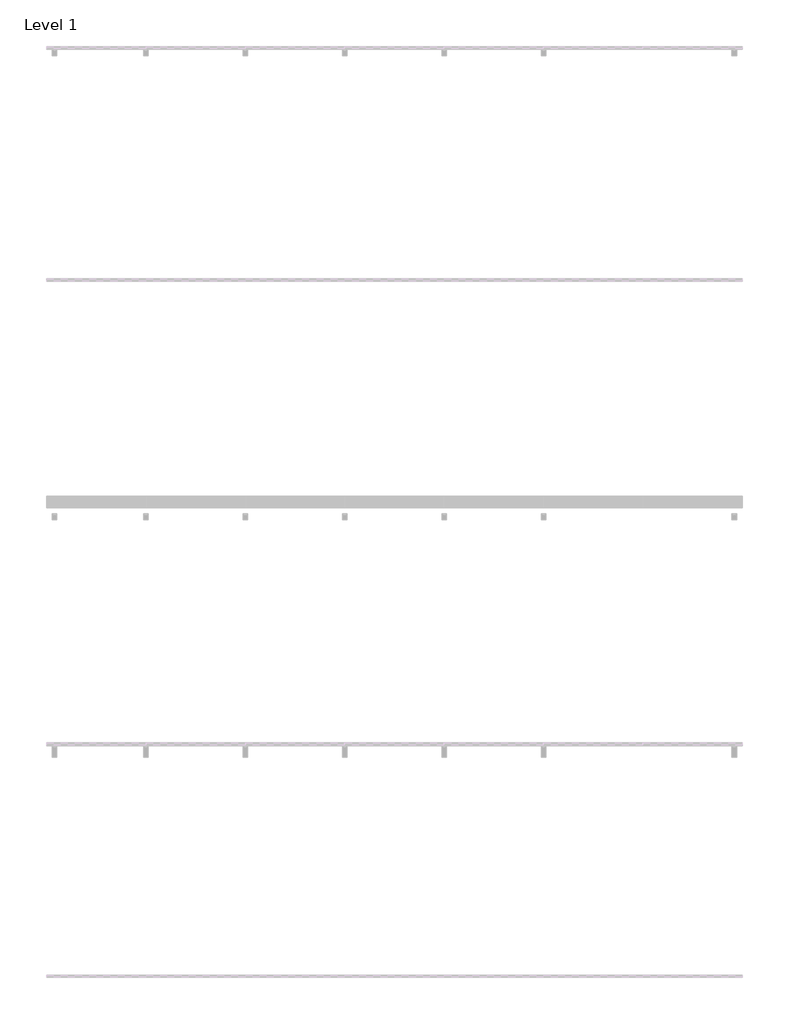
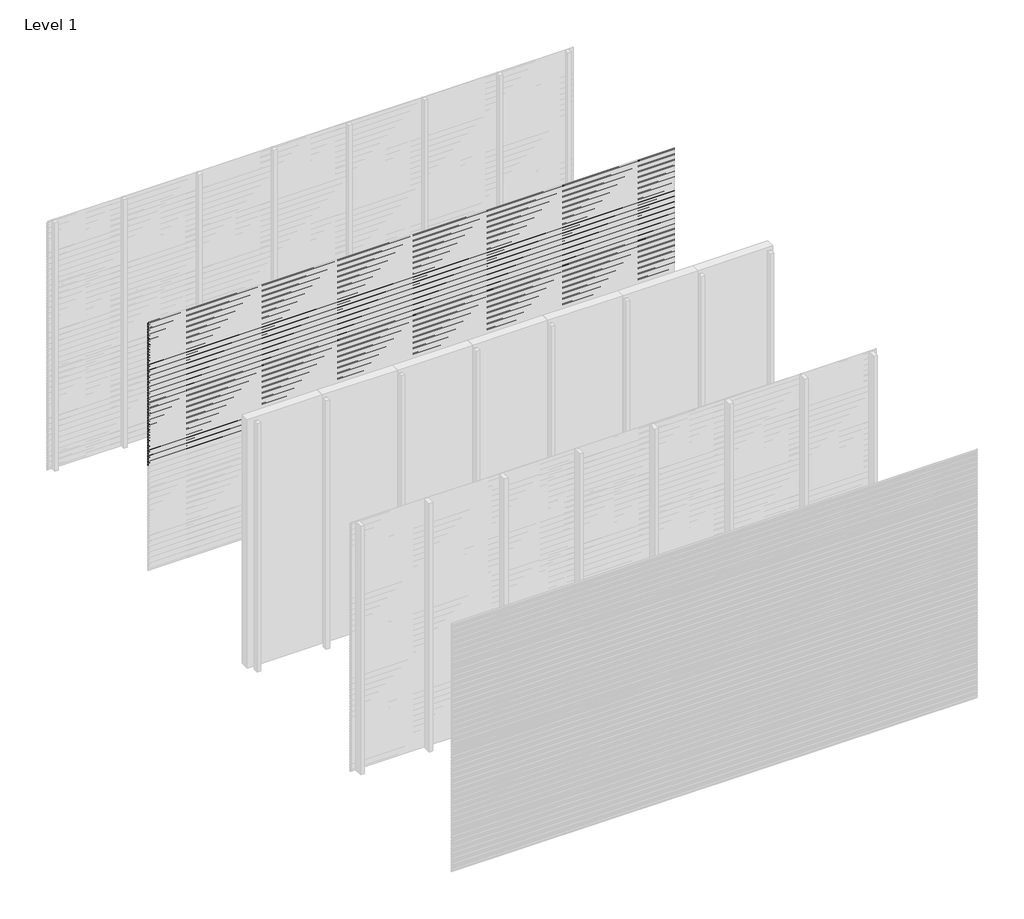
# One storey, part 41 of 96: 77 proxies.
"""IFC4 building model written with IfcOpenShell, lengths in millimetres."""

from ifc_helpers import new_model, si_unit, frame, origin, place, context, project, spatial, polyline, outline, extrude, element, save

model = new_model("IFC4")

# Units and contexts
model_context = context("Model", 3, world=origin())
ifc_project = project(units=[si_unit("LENGTHUNIT", "METRE", prefix="MILLI")], contexts=[model_context])

# Site, building, storey
site = spatial("IfcSite", under=ifc_project)
building = spatial("IfcBuilding", under=site)
storey = spatial("IfcBuildingStorey", under=building, Name="Level 1", Elevation=0.0)

# Proxies
placement = place(None, origin())
element("IfcBuildingElementProxy", 1, Name="Wall Sweeps", at=placement, inside=storey, context=model_context, shape_type="SweptSolid", body=[
    extrude(outline(polyline([(-31977.6, 2971.7655033), (-31977.6, 2957.4779188), (-31982.4114965, 2954.7), (-31982.4114965, 2955.9701706), (-31978.85, 2958.0264016), (-31978.85, 2971.0437382), (-31998.0, 2982.1000799), (-31998.0, 2997.0), (-31996.75, 2997.0), (-31996.75, 2982.8217609), (-31977.6, 2971.7655033)])), frame((0.0, 0.0, 0.0), z_axis=(1.0, 0.0, 0.0), x_axis=(0.0, 1.0, 0.0)), (0.0, 0.0, 1.0), 6000.0),
])
element("IfcBuildingElementProxy", 2, Name="Wall Sweeps", at=placement, inside=storey, context=model_context, shape_type="SweptSolid", body=[
    extrude(outline(polyline([(-31977.6, 2938.4655033), (-31977.6, 2924.1779188), (-31982.4114965, 2921.4), (-31982.4114965, 2922.6701706), (-31978.85, 2924.7264016), (-31978.85, 2937.7437382), (-31998.0, 2948.8000799), (-31998.0, 2963.7), (-31996.75, 2963.7), (-31996.75, 2949.5217609), (-31977.6, 2938.4655033)])), frame((0.0, 0.0, 0.0), z_axis=(1.0, 0.0, 0.0), x_axis=(0.0, 1.0, 0.0)), (0.0, 0.0, 1.0), 6000.0),
])
element("IfcBuildingElementProxy", 3, Name="Wall Sweeps", at=placement, inside=storey, context=model_context, shape_type="SweptSolid", body=[
    extrude(outline(polyline([(-31977.6, 2905.1655033), (-31977.6, 2890.8779188), (-31982.4114965, 2888.1), (-31982.4114965, 2889.3701706), (-31978.85, 2891.4264016), (-31978.85, 2904.4437382), (-31998.0, 2915.5000799), (-31998.0, 2930.4), (-31996.75, 2930.4), (-31996.75, 2916.2217609), (-31977.6, 2905.1655033)])), frame((0.0, 0.0, 0.0), z_axis=(1.0, 0.0, 0.0), x_axis=(0.0, 1.0, 0.0)), (0.0, 0.0, 1.0), 6000.0),
])
element("IfcBuildingElementProxy", 4, Name="Wall Sweeps", at=placement, inside=storey, context=model_context, shape_type="SweptSolid", body=[
    extrude(outline(polyline([(-31977.6, 2871.8655033), (-31977.6, 2857.5779188), (-31982.4114965, 2854.8), (-31982.4114965, 2856.0701706), (-31978.85, 2858.1264016), (-31978.85, 2871.1437382), (-31998.0, 2882.2000799), (-31998.0, 2897.1), (-31996.75, 2897.1), (-31996.75, 2882.9217609), (-31977.6, 2871.8655033)])), frame((0.0, 0.0, 0.0), z_axis=(1.0, 0.0, 0.0), x_axis=(0.0, 1.0, 0.0)), (0.0, 0.0, 1.0), 6000.0),
])
element("IfcBuildingElementProxy", 5, Name="Wall Sweeps", at=placement, inside=storey, context=model_context, shape_type="SweptSolid", body=[
    extrude(outline(polyline([(-31977.6, 2838.5655033), (-31977.6, 2824.2779188), (-31982.4114965, 2821.5), (-31982.4114965, 2822.7701706), (-31978.85, 2824.8264016), (-31978.85, 2837.8437382), (-31998.0, 2848.9000799), (-31998.0, 2863.8), (-31996.75, 2863.8), (-31996.75, 2849.6217609), (-31977.6, 2838.5655033)])), frame((0.0, 0.0, 0.0), z_axis=(1.0, 0.0, 0.0), x_axis=(0.0, 1.0, 0.0)), (0.0, 0.0, 1.0), 6000.0),
])
element("IfcBuildingElementProxy", 6, Name="Wall Sweeps", at=placement, inside=storey, context=model_context, shape_type="SweptSolid", body=[
    extrude(outline(polyline([(-31977.6, 2805.2655033), (-31977.6, 2790.9779188), (-31982.4114965, 2788.2), (-31982.4114965, 2789.4701706), (-31978.85, 2791.5264016), (-31978.85, 2804.5437382), (-31998.0, 2815.6000799), (-31998.0, 2830.5), (-31996.75, 2830.5), (-31996.75, 2816.3217609), (-31977.6, 2805.2655033)])), frame((0.0, 0.0, 0.0), z_axis=(1.0, 0.0, 0.0), x_axis=(0.0, 1.0, 0.0)), (0.0, 0.0, 1.0), 6000.0),
])
element("IfcBuildingElementProxy", 7, Name="Wall Sweeps", at=placement, inside=storey, context=model_context, shape_type="SweptSolid", body=[
    extrude(outline(polyline([(-31977.6, 2771.9655033), (-31977.6, 2757.6779188), (-31982.4114965, 2754.9), (-31982.4114965, 2756.1701706), (-31978.85, 2758.2264016), (-31978.85, 2771.2437382), (-31998.0, 2782.3000799), (-31998.0, 2797.2), (-31996.75, 2797.2), (-31996.75, 2783.0217609), (-31977.6, 2771.9655033)])), frame((0.0, 0.0, 0.0), z_axis=(1.0, 0.0, 0.0), x_axis=(0.0, 1.0, 0.0)), (0.0, 0.0, 1.0), 6000.0),
])
element("IfcBuildingElementProxy", 8, Name="Wall Sweeps", at=placement, inside=storey, context=model_context, shape_type="SweptSolid", body=[
    extrude(outline(polyline([(-31977.6, 2738.6655033), (-31977.6, 2724.3779188), (-31982.4114965, 2721.6), (-31982.4114965, 2722.8701706), (-31978.85, 2724.9264016), (-31978.85, 2737.9437382), (-31998.0, 2749.0000799), (-31998.0, 2763.9), (-31996.75, 2763.9), (-31996.75, 2749.7217609), (-31977.6, 2738.6655033)])), frame((0.0, 0.0, 0.0), z_axis=(1.0, 0.0, 0.0), x_axis=(0.0, 1.0, 0.0)), (0.0, 0.0, 1.0), 6000.0),
])
element("IfcBuildingElementProxy", 9, Name="Wall Sweeps", at=placement, inside=storey, context=model_context, shape_type="SweptSolid", body=[
    extrude(outline(polyline([(-31977.6, 2705.3655033), (-31977.6, 2691.0779188), (-31982.4114965, 2688.3), (-31982.4114965, 2689.5701706), (-31978.85, 2691.6264016), (-31978.85, 2704.6437382), (-31998.0, 2715.7000799), (-31998.0, 2730.6), (-31996.75, 2730.6), (-31996.75, 2716.4217609), (-31977.6, 2705.3655033)])), frame((0.0, 0.0, 0.0), z_axis=(1.0, 0.0, 0.0), x_axis=(0.0, 1.0, 0.0)), (0.0, 0.0, 1.0), 6000.0),
])
element("IfcBuildingElementProxy", 10, Name="Wall Sweeps", at=placement, inside=storey, context=model_context, shape_type="SweptSolid", body=[
    extrude(outline(polyline([(-31977.6, 2672.0655033), (-31977.6, 2657.7779188), (-31982.4114965, 2655.0), (-31982.4114965, 2656.2701706), (-31978.85, 2658.3264016), (-31978.85, 2671.3437382), (-31998.0, 2682.4000799), (-31998.0, 2697.3), (-31996.75, 2697.3), (-31996.75, 2683.1217609), (-31977.6, 2672.0655033)])), frame((0.0, 0.0, 0.0), z_axis=(1.0, 0.0, 0.0), x_axis=(0.0, 1.0, 0.0)), (0.0, 0.0, 1.0), 6000.0),
])
element("IfcBuildingElementProxy", 11, Name="Wall Sweeps", at=placement, inside=storey, context=model_context, shape_type="SweptSolid", body=[
    extrude(outline(polyline([(-31977.6, 2638.7655033), (-31977.6, 2624.4779188), (-31982.4114965, 2621.7), (-31982.4114965, 2622.9701706), (-31978.85, 2625.0264016), (-31978.85, 2638.0437382), (-31998.0, 2649.1000799), (-31998.0, 2664.0), (-31996.75, 2664.0), (-31996.75, 2649.8217609), (-31977.6, 2638.7655033)])), frame((0.0, 0.0, 0.0), z_axis=(1.0, 0.0, 0.0), x_axis=(0.0, 1.0, 0.0)), (0.0, 0.0, 1.0), 6000.0),
])
element("IfcBuildingElementProxy", 12, Name="Wall Sweeps", at=placement, inside=storey, context=model_context, shape_type="SweptSolid", body=[
    extrude(outline(polyline([(-31977.6, 2605.4655033), (-31977.6, 2591.1779188), (-31982.4114965, 2588.4), (-31982.4114965, 2589.6701706), (-31978.85, 2591.7264016), (-31978.85, 2604.7437382), (-31998.0, 2615.8000799), (-31998.0, 2630.7), (-31996.75, 2630.7), (-31996.75, 2616.5217609), (-31977.6, 2605.4655033)])), frame((0.0, 0.0, 0.0), z_axis=(1.0, 0.0, 0.0), x_axis=(0.0, 1.0, 0.0)), (0.0, 0.0, 1.0), 6000.0),
])
element("IfcBuildingElementProxy", 13, Name="Wall Sweeps", at=placement, inside=storey, context=model_context, shape_type="SweptSolid", body=[
    extrude(outline(polyline([(-31977.6, 2572.1655033), (-31977.6, 2557.8779188), (-31982.4114965, 2555.1), (-31982.4114965, 2556.3701706), (-31978.85, 2558.4264016), (-31978.85, 2571.4437382), (-31998.0, 2582.5000799), (-31998.0, 2597.4), (-31996.75, 2597.4), (-31996.75, 2583.2217609), (-31977.6, 2572.1655033)])), frame((0.0, 0.0, 0.0), z_axis=(1.0, 0.0, 0.0), x_axis=(0.0, 1.0, 0.0)), (0.0, 0.0, 1.0), 6000.0),
])
element("IfcBuildingElementProxy", 14, Name="Wall Sweeps", at=placement, inside=storey, context=model_context, shape_type="SweptSolid", body=[
    extrude(outline(polyline([(-31977.6, 2538.8655033), (-31977.6, 2524.5779188), (-31982.4114965, 2521.8), (-31982.4114965, 2523.0701706), (-31978.85, 2525.1264016), (-31978.85, 2538.1437382), (-31998.0, 2549.2000799), (-31998.0, 2564.1), (-31996.75, 2564.1), (-31996.75, 2549.9217609), (-31977.6, 2538.8655033)])), frame((0.0, 0.0, 0.0), z_axis=(1.0, 0.0, 0.0), x_axis=(0.0, 1.0, 0.0)), (0.0, 0.0, 1.0), 6000.0),
])
element("IfcBuildingElementProxy", 15, Name="Wall Sweeps", at=placement, inside=storey, context=model_context, shape_type="SweptSolid", body=[
    extrude(outline(polyline([(-31977.6, 2505.5655033), (-31977.6, 2491.2779188), (-31982.4114965, 2488.5), (-31982.4114965, 2489.7701706), (-31978.85, 2491.8264016), (-31978.85, 2504.8437382), (-31998.0, 2515.9000799), (-31998.0, 2530.8), (-31996.75, 2530.8), (-31996.75, 2516.6217609), (-31977.6, 2505.5655033)])), frame((0.0, 0.0, 0.0), z_axis=(1.0, 0.0, 0.0), x_axis=(0.0, 1.0, 0.0)), (0.0, 0.0, 1.0), 6000.0),
])
element("IfcBuildingElementProxy", 16, Name="Wall Sweeps", at=placement, inside=storey, context=model_context, shape_type="SweptSolid", body=[
    extrude(outline(polyline([(-31977.6, 2472.2655033), (-31977.6, 2457.9779188), (-31982.4114965, 2455.2), (-31982.4114965, 2456.4701706), (-31978.85, 2458.5264016), (-31978.85, 2471.5437382), (-31998.0, 2482.6000799), (-31998.0, 2497.5), (-31996.75, 2497.5), (-31996.75, 2483.3217609), (-31977.6, 2472.2655033)])), frame((0.0, 0.0, 0.0), z_axis=(1.0, 0.0, 0.0), x_axis=(0.0, 1.0, 0.0)), (0.0, 0.0, 1.0), 6000.0),
])
element("IfcBuildingElementProxy", 17, Name="Wall Sweeps", at=placement, inside=storey, context=model_context, shape_type="SweptSolid", body=[
    extrude(outline(polyline([(-31977.6, 2438.9655033), (-31977.6, 2424.6779188), (-31982.4114965, 2421.9), (-31982.4114965, 2423.1701706), (-31978.85, 2425.2264016), (-31978.85, 2438.2437382), (-31998.0, 2449.3000799), (-31998.0, 2464.2), (-31996.75, 2464.2), (-31996.75, 2450.0217609), (-31977.6, 2438.9655033)])), frame((0.0, 0.0, 0.0), z_axis=(1.0, 0.0, 0.0), x_axis=(0.0, 1.0, 0.0)), (0.0, 0.0, 1.0), 6000.0),
])
element("IfcBuildingElementProxy", 18, Name="Wall Sweeps", at=placement, inside=storey, context=model_context, shape_type="SweptSolid", body=[
    extrude(outline(polyline([(-31977.6, 2405.6655033), (-31977.6, 2391.3779188), (-31982.4114965, 2388.6), (-31982.4114965, 2389.8701706), (-31978.85, 2391.9264016), (-31978.85, 2404.9437382), (-31998.0, 2416.0000799), (-31998.0, 2430.9), (-31996.75, 2430.9), (-31996.75, 2416.7217609), (-31977.6, 2405.6655033)])), frame((0.0, 0.0, 0.0), z_axis=(1.0, 0.0, 0.0), x_axis=(0.0, 1.0, 0.0)), (0.0, 0.0, 1.0), 6000.0),
])
element("IfcBuildingElementProxy", 19, Name="Wall Sweeps", at=placement, inside=storey, context=model_context, shape_type="SweptSolid", body=[
    extrude(outline(polyline([(-31977.6, 2372.3655033), (-31977.6, 2358.0779188), (-31982.4114965, 2355.3), (-31982.4114965, 2356.5701706), (-31978.85, 2358.6264016), (-31978.85, 2371.6437382), (-31998.0, 2382.7000799), (-31998.0, 2397.6), (-31996.75, 2397.6), (-31996.75, 2383.4217609), (-31977.6, 2372.3655033)])), frame((0.0, 0.0, 0.0), z_axis=(1.0, 0.0, 0.0), x_axis=(0.0, 1.0, 0.0)), (0.0, 0.0, 1.0), 6000.0),
])
element("IfcBuildingElementProxy", 20, Name="Wall Sweeps", at=placement, inside=storey, context=model_context, shape_type="SweptSolid", body=[
    extrude(outline(polyline([(-31977.6, 2339.0655033), (-31977.6, 2324.7779188), (-31982.4114965, 2322.0), (-31982.4114965, 2323.2701706), (-31978.85, 2325.3264016), (-31978.85, 2338.3437382), (-31998.0, 2349.4000799), (-31998.0, 2364.3), (-31996.75, 2364.3), (-31996.75, 2350.1217609), (-31977.6, 2339.0655033)])), frame((0.0, 0.0, 0.0), z_axis=(1.0, 0.0, 0.0), x_axis=(0.0, 1.0, 0.0)), (0.0, 0.0, 1.0), 6000.0),
])
element("IfcBuildingElementProxy", 21, Name="Wall Sweeps", at=placement, inside=storey, context=model_context, shape_type="SweptSolid", body=[
    extrude(outline(polyline([(-31977.6, 2305.7655033), (-31977.6, 2291.4779188), (-31982.4114965, 2288.7), (-31982.4114965, 2289.9701706), (-31978.85, 2292.0264016), (-31978.85, 2305.0437382), (-31998.0, 2316.1000799), (-31998.0, 2331.0), (-31996.75, 2331.0), (-31996.75, 2316.8217609), (-31977.6, 2305.7655033)])), frame((0.0, 0.0, 0.0), z_axis=(1.0, 0.0, 0.0), x_axis=(0.0, 1.0, 0.0)), (0.0, 0.0, 1.0), 6000.0),
])
element("IfcBuildingElementProxy", 22, Name="Wall Sweeps", at=placement, inside=storey, context=model_context, shape_type="SweptSolid", body=[
    extrude(outline(polyline([(-31977.6, 2272.4655033), (-31977.6, 2258.1779188), (-31982.4114965, 2255.4), (-31982.4114965, 2256.6701706), (-31978.85, 2258.7264016), (-31978.85, 2271.7437382), (-31998.0, 2282.8000799), (-31998.0, 2297.7), (-31996.75, 2297.7), (-31996.75, 2283.5217609), (-31977.6, 2272.4655033)])), frame((0.0, 0.0, 0.0), z_axis=(1.0, 0.0, 0.0), x_axis=(0.0, 1.0, 0.0)), (0.0, 0.0, 1.0), 6000.0),
])
element("IfcBuildingElementProxy", 23, Name="Wall Sweeps", at=placement, inside=storey, context=model_context, shape_type="SweptSolid", body=[
    extrude(outline(polyline([(-31977.6, 2239.1655033), (-31977.6, 2224.8779188), (-31982.4114965, 2222.1), (-31982.4114965, 2223.3701706), (-31978.85, 2225.4264016), (-31978.85, 2238.4437382), (-31998.0, 2249.5000799), (-31998.0, 2264.4), (-31996.75, 2264.4), (-31996.75, 2250.2217609), (-31977.6, 2239.1655033)])), frame((0.0, 0.0, 0.0), z_axis=(1.0, 0.0, 0.0), x_axis=(0.0, 1.0, 0.0)), (0.0, 0.0, 1.0), 6000.0),
])
element("IfcBuildingElementProxy", 24, Name="Wall Sweeps", at=placement, inside=storey, context=model_context, shape_type="SweptSolid", body=[
    extrude(outline(polyline([(-31977.6, 2205.8655033), (-31977.6, 2191.5779188), (-31982.4114965, 2188.8), (-31982.4114965, 2190.0701706), (-31978.85, 2192.1264016), (-31978.85, 2205.1437382), (-31998.0, 2216.2000799), (-31998.0, 2231.1), (-31996.75, 2231.1), (-31996.75, 2216.9217609), (-31977.6, 2205.8655033)])), frame((0.0, 0.0, 0.0), z_axis=(1.0, 0.0, 0.0), x_axis=(0.0, 1.0, 0.0)), (0.0, 0.0, 1.0), 6000.0),
])
element("IfcBuildingElementProxy", 25, Name="Wall Sweeps", at=placement, inside=storey, context=model_context, shape_type="SweptSolid", body=[
    extrude(outline(polyline([(-31977.6, 2172.5655033), (-31977.6, 2158.2779188), (-31982.4114965, 2155.5), (-31982.4114965, 2156.7701706), (-31978.85, 2158.8264016), (-31978.85, 2171.8437382), (-31998.0, 2182.9000799), (-31998.0, 2197.8), (-31996.75, 2197.8), (-31996.75, 2183.6217609), (-31977.6, 2172.5655033)])), frame((0.0, 0.0, 0.0), z_axis=(1.0, 0.0, 0.0), x_axis=(0.0, 1.0, 0.0)), (0.0, 0.0, 1.0), 6000.0),
])
element("IfcBuildingElementProxy", 26, Name="Wall Sweeps", at=placement, inside=storey, context=model_context, shape_type="SweptSolid", body=[
    extrude(outline(polyline([(-31977.6, 2139.2655033), (-31977.6, 2124.9779188), (-31982.4114965, 2122.2), (-31982.4114965, 2123.4701706), (-31978.85, 2125.5264016), (-31978.85, 2138.5437382), (-31998.0, 2149.6000799), (-31998.0, 2164.5), (-31996.75, 2164.5), (-31996.75, 2150.3217609), (-31977.6, 2139.2655033)])), frame((0.0, 0.0, 0.0), z_axis=(1.0, 0.0, 0.0), x_axis=(0.0, 1.0, 0.0)), (0.0, 0.0, 1.0), 6000.0),
])
element("IfcBuildingElementProxy", 27, Name="Wall Sweeps", at=placement, inside=storey, context=model_context, shape_type="SweptSolid", body=[
    extrude(outline(polyline([(-31977.6, 2105.9655033), (-31977.6, 2091.6779188), (-31982.4114965, 2088.9), (-31982.4114965, 2090.1701706), (-31978.85, 2092.2264016), (-31978.85, 2105.2437382), (-31998.0, 2116.3000799), (-31998.0, 2131.2), (-31996.75, 2131.2), (-31996.75, 2117.0217609), (-31977.6, 2105.9655033)])), frame((0.0, 0.0, 0.0), z_axis=(1.0, 0.0, 0.0), x_axis=(0.0, 1.0, 0.0)), (0.0, 0.0, 1.0), 6000.0),
])
element("IfcBuildingElementProxy", 28, Name="Wall Sweeps", at=placement, inside=storey, context=model_context, shape_type="SweptSolid", body=[
    extrude(outline(polyline([(-31977.6, 2072.6655033), (-31977.6, 2058.3779188), (-31982.4114965, 2055.6), (-31982.4114965, 2056.8701706), (-31978.85, 2058.9264016), (-31978.85, 2071.9437382), (-31998.0, 2083.0000799), (-31998.0, 2097.9), (-31996.75, 2097.9), (-31996.75, 2083.7217609), (-31977.6, 2072.6655033)])), frame((0.0, 0.0, 0.0), z_axis=(1.0, 0.0, 0.0), x_axis=(0.0, 1.0, 0.0)), (0.0, 0.0, 1.0), 6000.0),
])
element("IfcBuildingElementProxy", 29, Name="Wall Sweeps", at=placement, inside=storey, context=model_context, shape_type="SweptSolid", body=[
    extrude(outline(polyline([(-31977.6, 2039.3655033), (-31977.6, 2025.0779188), (-31982.4114965, 2022.3), (-31982.4114965, 2023.5701706), (-31978.85, 2025.6264016), (-31978.85, 2038.6437382), (-31998.0, 2049.7000799), (-31998.0, 2064.6), (-31996.75, 2064.6), (-31996.75, 2050.4217609), (-31977.6, 2039.3655033)])), frame((0.0, 0.0, 0.0), z_axis=(1.0, 0.0, 0.0), x_axis=(0.0, 1.0, 0.0)), (0.0, 0.0, 1.0), 6000.0),
])
element("IfcBuildingElementProxy", 30, Name="Wall Sweeps", at=placement, inside=storey, context=model_context, shape_type="SweptSolid", body=[
    extrude(outline(polyline([(-31977.6, 2006.0655033), (-31977.6, 1991.7779188), (-31982.4114965, 1989.0), (-31982.4114965, 1990.2701706), (-31978.85, 1992.3264016), (-31978.85, 2005.3437382), (-31998.0, 2016.4000799), (-31998.0, 2031.3), (-31996.75, 2031.3), (-31996.75, 2017.1217609), (-31977.6, 2006.0655033)])), frame((0.0, 0.0, 0.0), z_axis=(1.0, 0.0, 0.0), x_axis=(0.0, 1.0, 0.0)), (0.0, 0.0, 1.0), 6000.0),
])
element("IfcBuildingElementProxy", 31, Name="Wall Sweeps", at=placement, inside=storey, context=model_context, shape_type="SweptSolid", body=[
    extrude(outline(polyline([(-31977.6, 1972.7655033), (-31977.6, 1958.4779188), (-31982.4114965, 1955.7), (-31982.4114965, 1956.9701706), (-31978.85, 1959.0264016), (-31978.85, 1972.0437382), (-31998.0, 1983.1000799), (-31998.0, 1998.0), (-31996.75, 1998.0), (-31996.75, 1983.8217609), (-31977.6, 1972.7655033)])), frame((0.0, 0.0, 0.0), z_axis=(1.0, 0.0, 0.0), x_axis=(0.0, 1.0, 0.0)), (0.0, 0.0, 1.0), 6000.0),
])
element("IfcBuildingElementProxy", 32, Name="Wall Sweeps", at=placement, inside=storey, context=model_context, shape_type="SweptSolid", body=[
    extrude(outline(polyline([(-31977.6, 1939.4655033), (-31977.6, 1925.1779188), (-31982.4114965, 1922.4), (-31982.4114965, 1923.6701706), (-31978.85, 1925.7264016), (-31978.85, 1938.7437382), (-31998.0, 1949.8000799), (-31998.0, 1964.7), (-31996.75, 1964.7), (-31996.75, 1950.5217609), (-31977.6, 1939.4655033)])), frame((0.0, 0.0, 0.0), z_axis=(1.0, 0.0, 0.0), x_axis=(0.0, 1.0, 0.0)), (0.0, 0.0, 1.0), 6000.0),
])
element("IfcBuildingElementProxy", 33, Name="Wall Sweeps", at=placement, inside=storey, context=model_context, shape_type="SweptSolid", body=[
    extrude(outline(polyline([(-31977.6, 1906.1655033), (-31977.6, 1891.8779188), (-31982.4114965, 1889.1), (-31982.4114965, 1890.3701706), (-31978.85, 1892.4264016), (-31978.85, 1905.4437382), (-31998.0, 1916.5000799), (-31998.0, 1931.4), (-31996.75, 1931.4), (-31996.75, 1917.2217609), (-31977.6, 1906.1655033)])), frame((0.0, 0.0, 0.0), z_axis=(1.0, 0.0, 0.0), x_axis=(0.0, 1.0, 0.0)), (0.0, 0.0, 1.0), 6000.0),
])
element("IfcBuildingElementProxy", 34, Name="Wall Sweeps", at=placement, inside=storey, context=model_context, shape_type="SweptSolid", body=[
    extrude(outline(polyline([(-31977.6, 1872.8655033), (-31977.6, 1858.5779188), (-31982.4114965, 1855.8), (-31982.4114965, 1857.0701706), (-31978.85, 1859.1264016), (-31978.85, 1872.1437382), (-31998.0, 1883.2000799), (-31998.0, 1898.1), (-31996.75, 1898.1), (-31996.75, 1883.9217609), (-31977.6, 1872.8655033)])), frame((0.0, 0.0, 0.0), z_axis=(1.0, 0.0, 0.0), x_axis=(0.0, 1.0, 0.0)), (0.0, 0.0, 1.0), 6000.0),
])
element("IfcBuildingElementProxy", 35, Name="Wall Sweeps", at=placement, inside=storey, context=model_context, shape_type="SweptSolid", body=[
    extrude(outline(polyline([(-31977.6, 1839.5655033), (-31977.6, 1825.2779188), (-31982.4114965, 1822.5), (-31982.4114965, 1823.7701706), (-31978.85, 1825.8264016), (-31978.85, 1838.8437382), (-31998.0, 1849.9000799), (-31998.0, 1864.8), (-31996.75, 1864.8), (-31996.75, 1850.6217609), (-31977.6, 1839.5655033)])), frame((0.0, 0.0, 0.0), z_axis=(1.0, 0.0, 0.0), x_axis=(0.0, 1.0, 0.0)), (0.0, 0.0, 1.0), 6000.0),
])
element("IfcBuildingElementProxy", 36, Name="Wall Sweeps", at=placement, inside=storey, context=model_context, shape_type="SweptSolid", body=[
    extrude(outline(polyline([(-31977.6, 1806.2655033), (-31977.6, 1791.9779188), (-31982.4114965, 1789.2), (-31982.4114965, 1790.4701706), (-31978.85, 1792.5264016), (-31978.85, 1805.5437382), (-31998.0, 1816.6000799), (-31998.0, 1831.5), (-31996.75, 1831.5), (-31996.75, 1817.3217609), (-31977.6, 1806.2655033)])), frame((0.0, 0.0, 0.0), z_axis=(1.0, 0.0, 0.0), x_axis=(0.0, 1.0, 0.0)), (0.0, 0.0, 1.0), 6000.0),
])
element("IfcBuildingElementProxy", 37, Name="Wall Sweeps", at=placement, inside=storey, context=model_context, shape_type="SweptSolid", body=[
    extrude(outline(polyline([(-31977.6, 1772.9655033), (-31977.6, 1758.6779188), (-31982.4114965, 1755.9), (-31982.4114965, 1757.1701706), (-31978.85, 1759.2264016), (-31978.85, 1772.2437382), (-31998.0, 1783.3000799), (-31998.0, 1798.2), (-31996.75, 1798.2), (-31996.75, 1784.0217609), (-31977.6, 1772.9655033)])), frame((0.0, 0.0, 0.0), z_axis=(1.0, 0.0, 0.0), x_axis=(0.0, 1.0, 0.0)), (0.0, 0.0, 1.0), 6000.0),
])
element("IfcBuildingElementProxy", 38, Name="Wall Sweeps", at=placement, inside=storey, context=model_context, shape_type="SweptSolid", body=[
    extrude(outline(polyline([(-31977.6, 1739.6655033), (-31977.6, 1725.3779188), (-31982.4114965, 1722.6), (-31982.4114965, 1723.8701706), (-31978.85, 1725.9264016), (-31978.85, 1738.9437382), (-31998.0, 1750.0000799), (-31998.0, 1764.9), (-31996.75, 1764.9), (-31996.75, 1750.7217609), (-31977.6, 1739.6655033)])), frame((0.0, 0.0, 0.0), z_axis=(1.0, 0.0, 0.0), x_axis=(0.0, 1.0, 0.0)), (0.0, 0.0, 1.0), 6000.0),
])
element("IfcBuildingElementProxy", 39, Name="Wall Sweeps", at=placement, inside=storey, context=model_context, shape_type="SweptSolid", body=[
    extrude(outline(polyline([(-31977.6, 1706.3655033), (-31977.6, 1692.0779188), (-31982.4114965, 1689.3), (-31982.4114965, 1690.5701706), (-31978.85, 1692.6264016), (-31978.85, 1705.6437382), (-31998.0, 1716.7000799), (-31998.0, 1731.6), (-31996.75, 1731.6), (-31996.75, 1717.4217609), (-31977.6, 1706.3655033)])), frame((0.0, 0.0, 0.0), z_axis=(1.0, 0.0, 0.0), x_axis=(0.0, 1.0, 0.0)), (0.0, 0.0, 1.0), 6000.0),
])
element("IfcBuildingElementProxy", 40, Name="Wall Sweeps", at=placement, inside=storey, context=model_context, shape_type="SweptSolid", body=[
    extrude(outline(polyline([(-31977.6, 1673.0655033), (-31977.6, 1658.7779188), (-31982.4114965, 1656.0), (-31982.4114965, 1657.2701706), (-31978.85, 1659.3264016), (-31978.85, 1672.3437382), (-31998.0, 1683.4000799), (-31998.0, 1698.3), (-31996.75, 1698.3), (-31996.75, 1684.1217609), (-31977.6, 1673.0655033)])), frame((0.0, 0.0, 0.0), z_axis=(1.0, 0.0, 0.0), x_axis=(0.0, 1.0, 0.0)), (0.0, 0.0, 1.0), 6000.0),
])
element("IfcBuildingElementProxy", 41, Name="Wall Sweeps", at=placement, inside=storey, context=model_context, shape_type="SweptSolid", body=[
    extrude(outline(polyline([(-31977.6, 1639.7655033), (-31977.6, 1625.4779188), (-31982.4114965, 1622.7), (-31982.4114965, 1623.9701706), (-31978.85, 1626.0264016), (-31978.85, 1639.0437382), (-31998.0, 1650.1000799), (-31998.0, 1665.0), (-31996.75, 1665.0), (-31996.75, 1650.8217609), (-31977.6, 1639.7655033)])), frame((0.0, 0.0, 0.0), z_axis=(1.0, 0.0, 0.0), x_axis=(0.0, 1.0, 0.0)), (0.0, 0.0, 1.0), 6000.0),
])
element("IfcBuildingElementProxy", 42, Name="Wall Sweeps", at=placement, inside=storey, context=model_context, shape_type="SweptSolid", body=[
    extrude(outline(polyline([(-31977.6, 1606.4655033), (-31977.6, 1592.1779188), (-31982.4114965, 1589.4), (-31982.4114965, 1590.6701706), (-31978.85, 1592.7264016), (-31978.85, 1605.7437382), (-31998.0, 1616.8000799), (-31998.0, 1631.7), (-31996.75, 1631.7), (-31996.75, 1617.5217609), (-31977.6, 1606.4655033)])), frame((0.0, 0.0, 0.0), z_axis=(1.0, 0.0, 0.0), x_axis=(0.0, 1.0, 0.0)), (0.0, 0.0, 1.0), 6000.0),
])
element("IfcBuildingElementProxy", 43, Name="Wall Sweeps", at=placement, inside=storey, context=model_context, shape_type="SweptSolid", body=[
    extrude(outline(polyline([(-31977.6, 1573.1655033), (-31977.6, 1558.8779188), (-31982.4114965, 1556.1), (-31982.4114965, 1557.3701706), (-31978.85, 1559.4264016), (-31978.85, 1572.4437382), (-31998.0, 1583.5000799), (-31998.0, 1598.4), (-31996.75, 1598.4), (-31996.75, 1584.2217609), (-31977.6, 1573.1655033)])), frame((0.0, 0.0, 0.0), z_axis=(1.0, 0.0, 0.0), x_axis=(0.0, 1.0, 0.0)), (0.0, 0.0, 1.0), 6000.0),
])
element("IfcBuildingElementProxy", 44, Name="Wall Sweeps", at=placement, inside=storey, context=model_context, shape_type="SweptSolid", body=[
    extrude(outline(polyline([(-31977.6, 1539.8655033), (-31977.6, 1525.5779188), (-31982.4114965, 1522.8), (-31982.4114965, 1524.0701706), (-31978.85, 1526.1264016), (-31978.85, 1539.1437382), (-31998.0, 1550.2000799), (-31998.0, 1565.1), (-31996.75, 1565.1), (-31996.75, 1550.9217609), (-31977.6, 1539.8655033)])), frame((0.0, 0.0, 0.0), z_axis=(1.0, 0.0, 0.0), x_axis=(0.0, 1.0, 0.0)), (0.0, 0.0, 1.0), 6000.0),
])
element("IfcBuildingElementProxy", 45, Name="Wall Sweeps", at=placement, inside=storey, context=model_context, shape_type="SweptSolid", body=[
    extrude(outline(polyline([(-31977.6, 1506.5655033), (-31977.6, 1492.2779188), (-31982.4114965, 1489.5), (-31982.4114965, 1490.7701706), (-31978.85, 1492.8264016), (-31978.85, 1505.8437382), (-31998.0, 1516.9000799), (-31998.0, 1531.8), (-31996.75, 1531.8), (-31996.75, 1517.6217609), (-31977.6, 1506.5655033)])), frame((0.0, 0.0, 0.0), z_axis=(1.0, 0.0, 0.0), x_axis=(0.0, 1.0, 0.0)), (0.0, 0.0, 1.0), 6000.0),
])
element("IfcBuildingElementProxy", 46, Name="Wall Sweeps", at=placement, inside=storey, context=model_context, shape_type="SweptSolid", body=[
    extrude(outline(polyline([(-31977.6, 1473.2655033), (-31977.6, 1458.9779188), (-31982.4114965, 1456.2), (-31982.4114965, 1457.4701706), (-31978.85, 1459.5264016), (-31978.85, 1472.5437382), (-31998.0, 1483.6000799), (-31998.0, 1498.5), (-31996.75, 1498.5), (-31996.75, 1484.3217609), (-31977.6, 1473.2655033)])), frame((0.0, 0.0, 0.0), z_axis=(1.0, 0.0, 0.0), x_axis=(0.0, 1.0, 0.0)), (0.0, 0.0, 1.0), 6000.0),
])
element("IfcBuildingElementProxy", 47, Name="Wall Sweeps", at=placement, inside=storey, context=model_context, shape_type="SweptSolid", body=[
    extrude(outline(polyline([(-31977.6, 1439.9655033), (-31977.6, 1425.6779188), (-31982.4114965, 1422.9), (-31982.4114965, 1424.1701706), (-31978.85, 1426.2264016), (-31978.85, 1439.2437382), (-31998.0, 1450.3000799), (-31998.0, 1465.2), (-31996.75, 1465.2), (-31996.75, 1451.0217609), (-31977.6, 1439.9655033)])), frame((0.0, 0.0, 0.0), z_axis=(1.0, 0.0, 0.0), x_axis=(0.0, 1.0, 0.0)), (0.0, 0.0, 1.0), 6000.0),
])
element("IfcBuildingElementProxy", 48, Name="Wall Sweeps", at=placement, inside=storey, context=model_context, shape_type="SweptSolid", body=[
    extrude(outline(polyline([(-31977.6, 1406.6655033), (-31977.6, 1392.3779188), (-31982.4114965, 1389.6), (-31982.4114965, 1390.8701706), (-31978.85, 1392.9264016), (-31978.85, 1405.9437382), (-31998.0, 1417.0000799), (-31998.0, 1431.9), (-31996.75, 1431.9), (-31996.75, 1417.7217609), (-31977.6, 1406.6655033)])), frame((0.0, 0.0, 0.0), z_axis=(1.0, 0.0, 0.0), x_axis=(0.0, 1.0, 0.0)), (0.0, 0.0, 1.0), 6000.0),
])
element("IfcBuildingElementProxy", 49, Name="Wall Sweeps", at=placement, inside=storey, context=model_context, shape_type="SweptSolid", body=[
    extrude(outline(polyline([(-31977.6, 1373.3655033), (-31977.6, 1359.0779188), (-31982.4114965, 1356.3), (-31982.4114965, 1357.5701706), (-31978.85, 1359.6264016), (-31978.85, 1372.6437382), (-31998.0, 1383.7000799), (-31998.0, 1398.6), (-31996.75, 1398.6), (-31996.75, 1384.4217609), (-31977.6, 1373.3655033)])), frame((0.0, 0.0, 0.0), z_axis=(1.0, 0.0, 0.0), x_axis=(0.0, 1.0, 0.0)), (0.0, 0.0, 1.0), 6000.0),
])
element("IfcBuildingElementProxy", 50, Name="Wall Sweeps", at=placement, inside=storey, context=model_context, shape_type="SweptSolid", body=[
    extrude(outline(polyline([(-31977.6, 1340.0655033), (-31977.6, 1325.7779188), (-31982.4114965, 1323.0), (-31982.4114965, 1324.2701706), (-31978.85, 1326.3264016), (-31978.85, 1339.3437382), (-31998.0, 1350.4000799), (-31998.0, 1365.3), (-31996.75, 1365.3), (-31996.75, 1351.1217609), (-31977.6, 1340.0655033)])), frame((0.0, 0.0, 0.0), z_axis=(1.0, 0.0, 0.0), x_axis=(0.0, 1.0, 0.0)), (0.0, 0.0, 1.0), 6000.0),
])
element("IfcBuildingElementProxy", 51, Name="Wall Sweeps", at=placement, inside=storey, context=model_context, shape_type="SweptSolid", body=[
    extrude(outline(polyline([(-31977.6, 1306.7655033), (-31977.6, 1292.4779188), (-31982.4114965, 1289.7), (-31982.4114965, 1290.9701706), (-31978.85, 1293.0264016), (-31978.85, 1306.0437382), (-31998.0, 1317.1000799), (-31998.0, 1332.0), (-31996.75, 1332.0), (-31996.75, 1317.8217609), (-31977.6, 1306.7655033)])), frame((0.0, 0.0, 0.0), z_axis=(1.0, 0.0, 0.0), x_axis=(0.0, 1.0, 0.0)), (0.0, 0.0, 1.0), 6000.0),
])
element("IfcBuildingElementProxy", 52, Name="Wall Sweeps", at=placement, inside=storey, context=model_context, shape_type="SweptSolid", body=[
    extrude(outline(polyline([(-31977.6, 1273.4655033), (-31977.6, 1259.1779188), (-31982.4114965, 1256.4), (-31982.4114965, 1257.6701706), (-31978.85, 1259.7264016), (-31978.85, 1272.7437382), (-31998.0, 1283.8000799), (-31998.0, 1298.7), (-31996.75, 1298.7), (-31996.75, 1284.5217609), (-31977.6, 1273.4655033)])), frame((0.0, 0.0, 0.0), z_axis=(1.0, 0.0, 0.0), x_axis=(0.0, 1.0, 0.0)), (0.0, 0.0, 1.0), 6000.0),
])
element("IfcBuildingElementProxy", 53, Name="Wall Sweeps", at=placement, inside=storey, context=model_context, shape_type="SweptSolid", body=[
    extrude(outline(polyline([(-35977.6, 807.2655033), (-35977.6, 792.9779188), (-35982.4114965, 790.2), (-35982.4114965, 791.4701706), (-35978.85, 793.5264016), (-35978.85, 806.5437382), (-35998.0, 817.6000799), (-35998.0, 832.5), (-35996.75, 832.5), (-35996.75, 818.3217609), (-35977.6, 807.2655033)])), frame((5142.8571429, 0.0, 0.0), z_axis=(1.0, 0.0, 0.0), x_axis=(0.0, 1.0, 0.0)), (0.0, 0.0, 1.0), 857.1428571),
])
element("IfcBuildingElementProxy", 54, Name="Wall Sweeps", at=placement, inside=storey, context=model_context, shape_type="SweptSolid", body=[
    extrude(outline(polyline([(-35977.6, 773.9655033), (-35977.6, 759.6779188), (-35982.4114965, 756.9), (-35982.4114965, 758.1701706), (-35978.85, 760.2264016), (-35978.85, 773.2437382), (-35998.0, 784.3000799), (-35998.0, 799.2), (-35996.75, 799.2), (-35996.75, 785.0217609), (-35977.6, 773.9655033)])), frame((5142.8571429, 0.0, 0.0), z_axis=(1.0, 0.0, 0.0), x_axis=(0.0, 1.0, 0.0)), (0.0, 0.0, 1.0), 857.1428571),
])
element("IfcBuildingElementProxy", 55, Name="Wall Sweeps", at=placement, inside=storey, context=model_context, shape_type="SweptSolid", body=[
    extrude(outline(polyline([(-35977.6, 740.6655033), (-35977.6, 726.3779188), (-35982.4114965, 723.6), (-35982.4114965, 724.8701706), (-35978.85, 726.9264016), (-35978.85, 739.9437382), (-35998.0, 751.0000799), (-35998.0, 765.9), (-35996.75, 765.9), (-35996.75, 751.7217609), (-35977.6, 740.6655033)])), frame((5142.8571429, 0.0, 0.0), z_axis=(1.0, 0.0, 0.0), x_axis=(0.0, 1.0, 0.0)), (0.0, 0.0, 1.0), 857.1428571),
])
element("IfcBuildingElementProxy", 56, Name="Wall Sweeps", at=placement, inside=storey, context=model_context, shape_type="SweptSolid", body=[
    extrude(outline(polyline([(-35977.6, 707.3655033), (-35977.6, 693.0779188), (-35982.4114965, 690.3), (-35982.4114965, 691.5701706), (-35978.85, 693.6264016), (-35978.85, 706.6437382), (-35998.0, 717.7000799), (-35998.0, 732.6), (-35996.75, 732.6), (-35996.75, 718.4217609), (-35977.6, 707.3655033)])), frame((5142.8571429, 0.0, 0.0), z_axis=(1.0, 0.0, 0.0), x_axis=(0.0, 1.0, 0.0)), (0.0, 0.0, 1.0), 857.1428571),
])
element("IfcBuildingElementProxy", 57, Name="Wall Sweeps", at=placement, inside=storey, context=model_context, shape_type="SweptSolid", body=[
    extrude(outline(polyline([(-35977.6, 674.0655033), (-35977.6, 659.7779188), (-35982.4114965, 657.0), (-35982.4114965, 658.2701706), (-35978.85, 660.3264016), (-35978.85, 673.3437382), (-35998.0, 684.4000799), (-35998.0, 699.3), (-35996.75, 699.3), (-35996.75, 685.1217609), (-35977.6, 674.0655033)])), frame((5142.8571429, 0.0, 0.0), z_axis=(1.0, 0.0, 0.0), x_axis=(0.0, 1.0, 0.0)), (0.0, 0.0, 1.0), 857.1428571),
])
element("IfcBuildingElementProxy", 58, Name="Wall Sweeps", at=placement, inside=storey, context=model_context, shape_type="SweptSolid", body=[
    extrude(outline(polyline([(-35977.6, 640.7655033), (-35977.6, 626.4779188), (-35982.4114965, 623.7), (-35982.4114965, 624.9701706), (-35978.85, 627.0264016), (-35978.85, 640.0437382), (-35998.0, 651.1000799), (-35998.0, 666.0), (-35996.75, 666.0), (-35996.75, 651.8217609), (-35977.6, 640.7655033)])), frame((5142.8571429, 0.0, 0.0), z_axis=(1.0, 0.0, 0.0), x_axis=(0.0, 1.0, 0.0)), (0.0, 0.0, 1.0), 857.1428571),
])
element("IfcBuildingElementProxy", 59, Name="Wall Sweeps", at=placement, inside=storey, context=model_context, shape_type="SweptSolid", body=[
    extrude(outline(polyline([(-35977.6, 607.4655033), (-35977.6, 593.1779188), (-35982.4114965, 590.4), (-35982.4114965, 591.6701706), (-35978.85, 593.7264016), (-35978.85, 606.7437382), (-35998.0, 617.8000799), (-35998.0, 632.7), (-35996.75, 632.7), (-35996.75, 618.5217609), (-35977.6, 607.4655033)])), frame((5142.8571429, 0.0, 0.0), z_axis=(1.0, 0.0, 0.0), x_axis=(0.0, 1.0, 0.0)), (0.0, 0.0, 1.0), 857.1428571),
])
element("IfcBuildingElementProxy", 60, Name="Wall Sweeps", at=placement, inside=storey, context=model_context, shape_type="SweptSolid", body=[
    extrude(outline(polyline([(-35977.6, 574.1655033), (-35977.6, 559.8779188), (-35982.4114965, 557.1), (-35982.4114965, 558.3701706), (-35978.85, 560.4264016), (-35978.85, 573.4437382), (-35998.0, 584.5000799), (-35998.0, 599.4), (-35996.75, 599.4), (-35996.75, 585.2217609), (-35977.6, 574.1655033)])), frame((5142.8571429, 0.0, 0.0), z_axis=(1.0, 0.0, 0.0), x_axis=(0.0, 1.0, 0.0)), (0.0, 0.0, 1.0), 857.1428571),
])
element("IfcBuildingElementProxy", 61, Name="Wall Sweeps", at=placement, inside=storey, context=model_context, shape_type="SweptSolid", body=[
    extrude(outline(polyline([(-35977.6, 540.8655033), (-35977.6, 526.5779188), (-35982.4114965, 523.8), (-35982.4114965, 525.0701706), (-35978.85, 527.1264016), (-35978.85, 540.1437382), (-35998.0, 551.2000799), (-35998.0, 566.1), (-35996.75, 566.1), (-35996.75, 551.9217609), (-35977.6, 540.8655033)])), frame((5142.8571429, 0.0, 0.0), z_axis=(1.0, 0.0, 0.0), x_axis=(0.0, 1.0, 0.0)), (0.0, 0.0, 1.0), 857.1428571),
])
element("IfcBuildingElementProxy", 62, Name="Wall Sweeps", at=placement, inside=storey, context=model_context, shape_type="SweptSolid", body=[
    extrude(outline(polyline([(-35977.6, 507.5655033), (-35977.6, 493.2779188), (-35982.4114965, 490.5), (-35982.4114965, 491.7701706), (-35978.85, 493.8264016), (-35978.85, 506.8437382), (-35998.0, 517.9000799), (-35998.0, 532.8), (-35996.75, 532.8), (-35996.75, 518.6217609), (-35977.6, 507.5655033)])), frame((5142.8571429, 0.0, 0.0), z_axis=(1.0, 0.0, 0.0), x_axis=(0.0, 1.0, 0.0)), (0.0, 0.0, 1.0), 857.1428571),
])
element("IfcBuildingElementProxy", 63, Name="Wall Sweeps", at=placement, inside=storey, context=model_context, shape_type="SweptSolid", body=[
    extrude(outline(polyline([(-35977.6, 474.2655033), (-35977.6, 459.9779188), (-35982.4114965, 457.2), (-35982.4114965, 458.4701706), (-35978.85, 460.5264016), (-35978.85, 473.5437382), (-35998.0, 484.6000799), (-35998.0, 499.5), (-35996.75, 499.5), (-35996.75, 485.3217609), (-35977.6, 474.2655033)])), frame((5142.8571429, 0.0, 0.0), z_axis=(1.0, 0.0, 0.0), x_axis=(0.0, 1.0, 0.0)), (0.0, 0.0, 1.0), 857.1428571),
])
element("IfcBuildingElementProxy", 64, Name="Wall Sweeps", at=placement, inside=storey, context=model_context, shape_type="SweptSolid", body=[
    extrude(outline(polyline([(-35977.6, 440.9655033), (-35977.6, 426.6779188), (-35982.4114965, 423.9), (-35982.4114965, 425.1701706), (-35978.85, 427.2264016), (-35978.85, 440.2437382), (-35998.0, 451.3000799), (-35998.0, 466.2), (-35996.75, 466.2), (-35996.75, 452.0217609), (-35977.6, 440.9655033)])), frame((5142.8571429, 0.0, 0.0), z_axis=(1.0, 0.0, 0.0), x_axis=(0.0, 1.0, 0.0)), (0.0, 0.0, 1.0), 857.1428571),
])
element("IfcBuildingElementProxy", 65, Name="Wall Sweeps", at=placement, inside=storey, context=model_context, shape_type="SweptSolid", body=[
    extrude(outline(polyline([(-35977.6, 407.6655033), (-35977.6, 393.3779188), (-35982.4114965, 390.6), (-35982.4114965, 391.8701706), (-35978.85, 393.9264016), (-35978.85, 406.9437382), (-35998.0, 418.0000799), (-35998.0, 432.9), (-35996.75, 432.9), (-35996.75, 418.7217609), (-35977.6, 407.6655033)])), frame((5142.8571429, 0.0, 0.0), z_axis=(1.0, 0.0, 0.0), x_axis=(0.0, 1.0, 0.0)), (0.0, 0.0, 1.0), 857.1428571),
])
element("IfcBuildingElementProxy", 66, Name="Wall Sweeps", at=placement, inside=storey, context=model_context, shape_type="SweptSolid", body=[
    extrude(outline(polyline([(-35977.6, 374.3655033), (-35977.6, 360.0779188), (-35982.4114965, 357.3), (-35982.4114965, 358.5701706), (-35978.85, 360.6264016), (-35978.85, 373.6437382), (-35998.0, 384.7000799), (-35998.0, 399.6), (-35996.75, 399.6), (-35996.75, 385.4217609), (-35977.6, 374.3655033)])), frame((5142.8571429, 0.0, 0.0), z_axis=(1.0, 0.0, 0.0), x_axis=(0.0, 1.0, 0.0)), (0.0, 0.0, 1.0), 857.1428571),
])
element("IfcBuildingElementProxy", 67, Name="Wall Sweeps", at=placement, inside=storey, context=model_context, shape_type="SweptSolid", body=[
    extrude(outline(polyline([(-35977.6, 341.0655033), (-35977.6, 326.7779188), (-35982.4114965, 324.0), (-35982.4114965, 325.2701706), (-35978.85, 327.3264016), (-35978.85, 340.3437382), (-35998.0, 351.4000799), (-35998.0, 366.3), (-35996.75, 366.3), (-35996.75, 352.1217609), (-35977.6, 341.0655033)])), frame((5142.8571429, 0.0, 0.0), z_axis=(1.0, 0.0, 0.0), x_axis=(0.0, 1.0, 0.0)), (0.0, 0.0, 1.0), 857.1428571),
])
element("IfcBuildingElementProxy", 68, Name="Wall Sweeps", at=placement, inside=storey, context=model_context, shape_type="SweptSolid", body=[
    extrude(outline(polyline([(-35977.6, 307.7655033), (-35977.6, 293.4779188), (-35982.4114965, 290.7), (-35982.4114965, 291.9701706), (-35978.85, 294.0264016), (-35978.85, 307.0437382), (-35998.0, 318.1000799), (-35998.0, 333.0), (-35996.75, 333.0), (-35996.75, 318.8217609), (-35977.6, 307.7655033)])), frame((5142.8571429, 0.0, 0.0), z_axis=(1.0, 0.0, 0.0), x_axis=(0.0, 1.0, 0.0)), (0.0, 0.0, 1.0), 857.1428571),
])
element("IfcBuildingElementProxy", 69, Name="Wall Sweeps", at=placement, inside=storey, context=model_context, shape_type="SweptSolid", body=[
    extrude(outline(polyline([(-35977.6, 274.4655033), (-35977.6, 260.1779188), (-35982.4114965, 257.4), (-35982.4114965, 258.6701706), (-35978.85, 260.7264016), (-35978.85, 273.7437382), (-35998.0, 284.8000799), (-35998.0, 299.7), (-35996.75, 299.7), (-35996.75, 285.5217609), (-35977.6, 274.4655033)])), frame((5142.8571429, 0.0, 0.0), z_axis=(1.0, 0.0, 0.0), x_axis=(0.0, 1.0, 0.0)), (0.0, 0.0, 1.0), 857.1428571),
])
element("IfcBuildingElementProxy", 70, Name="Wall Sweeps", at=placement, inside=storey, context=model_context, shape_type="SweptSolid", body=[
    extrude(outline(polyline([(-35977.6, 241.1655033), (-35977.6, 226.8779188), (-35982.4114965, 224.1), (-35982.4114965, 225.3701706), (-35978.85, 227.4264016), (-35978.85, 240.4437382), (-35998.0, 251.5000799), (-35998.0, 266.4), (-35996.75, 266.4), (-35996.75, 252.2217609), (-35977.6, 241.1655033)])), frame((5142.8571429, 0.0, 0.0), z_axis=(1.0, 0.0, 0.0), x_axis=(0.0, 1.0, 0.0)), (0.0, 0.0, 1.0), 857.1428571),
])
element("IfcBuildingElementProxy", 71, Name="Wall Sweeps", at=placement, inside=storey, context=model_context, shape_type="SweptSolid", body=[
    extrude(outline(polyline([(-35977.6, 207.8655033), (-35977.6, 193.5779188), (-35982.4114965, 190.8), (-35982.4114965, 192.0701706), (-35978.85, 194.1264016), (-35978.85, 207.1437382), (-35998.0, 218.2000799), (-35998.0, 233.1), (-35996.75, 233.1), (-35996.75, 218.9217609), (-35977.6, 207.8655033)])), frame((5142.8571429, 0.0, 0.0), z_axis=(1.0, 0.0, 0.0), x_axis=(0.0, 1.0, 0.0)), (0.0, 0.0, 1.0), 857.1428571),
])
element("IfcBuildingElementProxy", 72, Name="Wall Sweeps", at=placement, inside=storey, context=model_context, shape_type="SweptSolid", body=[
    extrude(outline(polyline([(-35977.6, 174.5655033), (-35977.6, 160.2779188), (-35982.4114965, 157.5), (-35982.4114965, 158.7701706), (-35978.85, 160.8264016), (-35978.85, 173.8437382), (-35998.0, 184.9000799), (-35998.0, 199.8), (-35996.75, 199.8), (-35996.75, 185.6217609), (-35977.6, 174.5655033)])), frame((5142.8571429, 0.0, 0.0), z_axis=(1.0, 0.0, 0.0), x_axis=(0.0, 1.0, 0.0)), (0.0, 0.0, 1.0), 857.1428571),
])
element("IfcBuildingElementProxy", 73, Name="Wall Sweeps", at=placement, inside=storey, context=model_context, shape_type="SweptSolid", body=[
    extrude(outline(polyline([(-35977.6, 141.2655033), (-35977.6, 126.9779188), (-35982.4114965, 124.2), (-35982.4114965, 125.4701706), (-35978.85, 127.5264016), (-35978.85, 140.5437382), (-35998.0, 151.6000799), (-35998.0, 166.5), (-35996.75, 166.5), (-35996.75, 152.3217609), (-35977.6, 141.2655033)])), frame((5142.8571429, 0.0, 0.0), z_axis=(1.0, 0.0, 0.0), x_axis=(0.0, 1.0, 0.0)), (0.0, 0.0, 1.0), 857.1428571),
])
element("IfcBuildingElementProxy", 74, Name="Wall Sweeps", at=placement, inside=storey, context=model_context, shape_type="SweptSolid", body=[
    extrude(outline(polyline([(-35977.6, 107.9655033), (-35977.6, 93.6779188), (-35982.4114965, 90.9), (-35982.4114965, 92.1701706), (-35978.85, 94.2264016), (-35978.85, 107.2437382), (-35998.0, 118.3000799), (-35998.0, 133.2), (-35996.75, 133.2), (-35996.75, 119.0217609), (-35977.6, 107.9655033)])), frame((5142.8571429, 0.0, 0.0), z_axis=(1.0, 0.0, 0.0), x_axis=(0.0, 1.0, 0.0)), (0.0, 0.0, 1.0), 857.1428571),
])
element("IfcBuildingElementProxy", 75, Name="Wall Sweeps", at=placement, inside=storey, context=model_context, shape_type="SweptSolid", body=[
    extrude(outline(polyline([(-35977.6, 74.6655033), (-35977.6, 60.3779188), (-35982.4114965, 57.6), (-35982.4114965, 58.8701706), (-35978.85, 60.9264016), (-35978.85, 73.9437382), (-35998.0, 85.0000799), (-35998.0, 99.9), (-35996.75, 99.9), (-35996.75, 85.7217609), (-35977.6, 74.6655033)])), frame((5142.8571429, 0.0, 0.0), z_axis=(1.0, 0.0, 0.0), x_axis=(0.0, 1.0, 0.0)), (0.0, 0.0, 1.0), 857.1428571),
])
element("IfcBuildingElementProxy", 76, Name="Wall Sweeps", at=placement, inside=storey, context=model_context, shape_type="SweptSolid", body=[
    extrude(outline(polyline([(-35977.6, 41.3655033), (-35977.6, 27.0779188), (-35982.4114965, 24.3), (-35982.4114965, 25.5701706), (-35978.85, 27.6264016), (-35978.85, 40.6437382), (-35998.0, 51.7000799), (-35998.0, 66.6), (-35996.75, 66.6), (-35996.75, 52.4217609), (-35977.6, 41.3655033)])), frame((5142.8571429, 0.0, 0.0), z_axis=(1.0, 0.0, 0.0), x_axis=(0.0, 1.0, 0.0)), (0.0, 0.0, 1.0), 857.1428571),
])
element("IfcBuildingElementProxy", 77, Name="Wall Sweeps", at=placement, inside=storey, context=model_context, shape_type="SweptSolid", body=[
    extrude(outline(polyline([(-35977.6, 8.0655033), (-35977.6, -6.2220812), (-35982.4114965, -9.0), (-35982.4114965, -7.7298294), (-35978.85, -5.6735984), (-35978.85, 7.3437382), (-35998.0, 18.4000799), (-35998.0, 33.3), (-35996.75, 33.3), (-35996.75, 19.1217609), (-35977.6, 8.0655033)])), frame((5142.8571429, 0.0, 0.0), z_axis=(1.0, 0.0, 0.0), x_axis=(0.0, 1.0, 0.0)), (0.0, 0.0, 1.0), 857.1428571),
])

save(model, "model.ifc")
